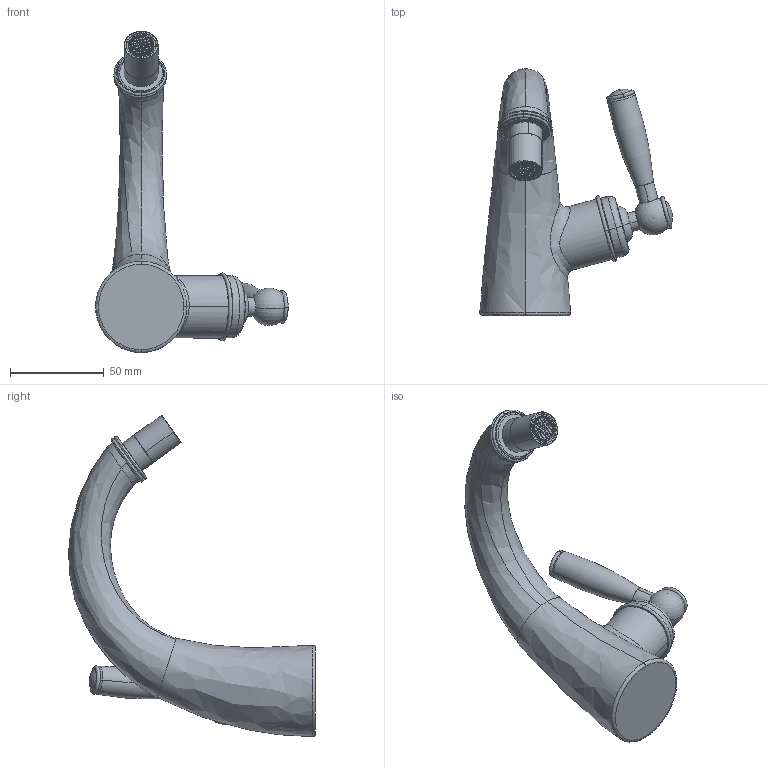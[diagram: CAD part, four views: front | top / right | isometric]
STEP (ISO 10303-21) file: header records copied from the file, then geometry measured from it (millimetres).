
FILE_DESCRIPTION (( 'STEP AP203' ), '1' );
FILE_NAME ('84423910 X ARCHITETTI.STEP', '2026-07-06T14:05:53', ( '' ), ( '' ), 'SwSTEP 2.0', 'SolidWorks 2020', '' );
FILE_SCHEMA (( 'CONFIG_CONTROL_DESIGN' ));
Length unit declared in the file: millimetre
Products named in the file (1): 84423910 X ARCHITETTI
Bounding box: 102.72 x 131.59 x 171.25 mm (x, y, z)
Surface area: 55070.1 mm2 (no closed solid volume)
Topology: 0 solids, 19 shells, 962 faces, 2290 edges, 1359 vertices
Faces by surface type: cylinder 424, plane 372, bspline 82, cone 46, torus 36, sphere 2
Full cylindrical faces by diameter (mm): 15.1 x2
Entity records: 81079 total; most frequent: CARTESIAN_POINT 61626, ORIENTED_EDGE 4521, DIRECTION 3168, EDGE_CURVE 2270, VERTEX_POINT 1354, AXIS2_PLACEMENT_3D 1151, B_SPLINE_CURVE_WITH_KNOTS 1033, EDGE_LOOP 989
